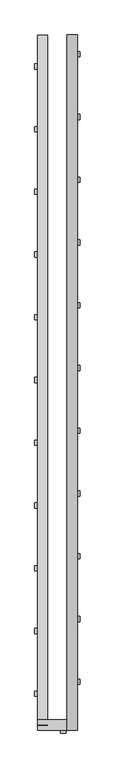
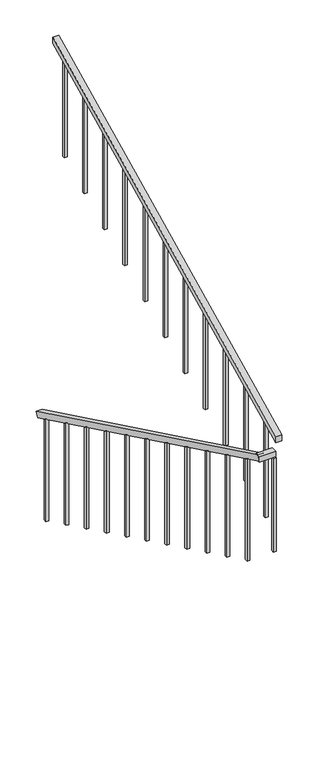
"""IFC4 building model written with IfcOpenShell, lengths in millimetres: railing geometry, ADSK_Стандартное_h 900 Поручень квадратный без направляющих."""

import ifcopenshell
import ifcopenshell.guid

model = None  # the IFC model being written
_history = None  # IfcOwnerHistory: only IFC2X3 demands one
_inside = {}  # id of a spatial element -> (the spatial element, [elements in it])
_under = {}  # id of a project, library or spatial element -> (it, [spatial elements below it])
_declared = {}  # id of a project -> (the project, [libraries it declares])
_typed = {}  # id of a type object -> (the type object, [elements of that type])
_made_of = {}  # id of a material, layer set ... -> (it, [elements and type objects made of it])


def new_model(schema):
    """Start an empty IFC model of exactly this schema.

    Asked for "IFC4X3", IfcOpenShell would pick the latest addendum, in which some entities
    have other attributes; the version numbers below select the first issue.
    IFC2X3 requires an IfcOwnerHistory on every rooted entity: one is made here for all.
    """
    global model, _history
    if schema == "IFC4X3":
        model = ifcopenshell.file(schema_version=(4, 3, 0, 0))
    else:
        model = ifcopenshell.file(schema=schema)
    _inside.clear()
    _under.clear()
    _declared.clear()
    _typed.clear()
    _made_of.clear()
    _history = None
    if model.schema == "IFC2X3":
        org = make("IfcOrganization", Name="unknown")
        user = make(
            "IfcPersonAndOrganization",
            ThePerson=make("IfcPerson", FamilyName="unknown"),
            TheOrganization=org,
        )
        app = make(
            "IfcApplication",
            ApplicationDeveloper=org,
            Version="unknown",
            ApplicationFullName="unknown",
            ApplicationIdentifier="unknown",
        )
        _history = make(
            "IfcOwnerHistory",
            OwningUser=user,
            OwningApplication=app,
            ChangeAction="ADDED",
            CreationDate=0,
        )
    return model


def make(cls, **values):
    """One entity of the class cls with the attributes given. An attribute that is None is left unset."""
    return model.create_entity(
        cls, **{name: value for name, value in values.items() if value is not None}
    )


def rooted(cls, **values):
    """An entity with a GlobalId (a new one), such as an element, a storey or a relation."""
    return make(cls, GlobalId=ifcopenshell.guid.new(), OwnerHistory=_history, **values)


def si_unit(unit_type, name, prefix=None):
    """IfcSIUnit, for example si_unit("LENGTHUNIT", "METRE", prefix="MILLI")."""
    return make("IfcSIUnit", UnitType=unit_type, Prefix=prefix, Name=name)


def assignment(units):
    """IfcUnitAssignment: the units of a project."""
    return None if units is None else make("IfcUnitAssignment", Units=units)


def point(xyz):
    """IfcCartesianPoint."""
    return None if xyz is None else make("IfcCartesianPoint", Coordinates=xyz)


def direction(xyz):
    """IfcDirection."""
    return None if xyz is None else make("IfcDirection", DirectionRatios=xyz)


def frame(location, z_axis=None, x_axis=None):
    """IfcAxis2Placement3D, a coordinate frame: its origin and axes. An axis left out is left unset."""
    return make(
        "IfcAxis2Placement3D",
        Location=point(location),
        Axis=direction(z_axis),
        RefDirection=direction(x_axis),
    )


def origin():
    """The frame at (0, 0, 0) with its axes left unset."""
    return frame((0.0, 0.0, 0.0))


def place(relative_to, where):
    """IfcLocalPlacement: puts the frame where relative to a parent placement (None: the world)."""
    return make(
        "IfcLocalPlacement", PlacementRelTo=relative_to, RelativePlacement=where
    )


def context(
    kind, dimensions, precision=None, world=None, true_north=None, identifier=None
):
    """IfcGeometricRepresentationContext, for example the 3D "Model" context."""
    return make(
        "IfcGeometricRepresentationContext",
        ContextIdentifier=identifier,
        ContextType=kind,
        CoordinateSpaceDimension=dimensions,
        Precision=precision,
        WorldCoordinateSystem=world,
        TrueNorth=true_north,
    )


def project(units=None, contexts=None):
    """IfcProject with its units and contexts."""
    return rooted(
        "IfcProject",
        Name="project",
        RepresentationContexts=contexts,
        UnitsInContext=assignment(units),
    )


def spatial(cls, under=None, at=None, **own):
    """A site, building, storey or space (cls), placed at a placement, below another one or the project."""
    s = rooted(cls, ObjectPlacement=at, **own)
    if under is not None:
        _under.setdefault(under.id(), (under, []))[1].append(s)
    return s


def polyline(points):
    """IfcPolyline through the points."""
    return make("IfcPolyline", Points=[point(p) for p in points])


def outline(outer, holes=None, kind="AREA"):
    """IfcArbitraryClosedProfileDef: a profile drawn as a closed curve; with holes, ...WithVoids."""
    if holes is None:
        return make("IfcArbitraryClosedProfileDef", ProfileType=kind, OuterCurve=outer)
    return make(
        "IfcArbitraryProfileDefWithVoids",
        ProfileType=kind,
        OuterCurve=outer,
        InnerCurves=holes,
    )


def extrude(swept, where, along, depth):
    """IfcExtrudedAreaSolid: the profile swept, set in the frame where, extruded along a direction by depth."""
    return make(
        "IfcExtrudedAreaSolid",
        SweptArea=swept,
        Position=where,
        ExtrudedDirection=direction(along),
        Depth=depth,
    )


def shape(context_of_items, identifier, shape_type, items):
    """IfcShapeRepresentation: the items that make up one representation, for example the "Body"."""
    return make(
        "IfcShapeRepresentation",
        ContextOfItems=context_of_items,
        RepresentationIdentifier=identifier,
        RepresentationType=shape_type,
        Items=items,
    )


def source(mapping_origin, context_of_items, identifier, shape_type, items):
    """IfcRepresentationMap: a shape defined once, which mapped items show again and again."""
    return make(
        "IfcRepresentationMap",
        MappingOrigin=mapping_origin,
        MappedRepresentation=shape(context_of_items, identifier, shape_type, items),
    )


def transform(
    local_origin,
    x_axis=None,
    y_axis=None,
    z_axis=None,
    scale=None,
    scale2=None,
    scale3=None,
    uniform=True,
):
    """IfcCartesianTransformationOperator3D, or its non-uniform kind. x_axis, y_axis, z_axis: its Axis1, 2, 3."""
    if uniform:
        return make(
            "IfcCartesianTransformationOperator3D",
            Axis1=direction(x_axis),
            Axis2=direction(y_axis),
            LocalOrigin=point(local_origin),
            Scale=scale,
            Axis3=direction(z_axis),
        )
    return make(
        "IfcCartesianTransformationOperator3DnonUniform",
        Axis1=direction(x_axis),
        Axis2=direction(y_axis),
        LocalOrigin=point(local_origin),
        Scale=scale,
        Axis3=direction(z_axis),
        Scale2=scale2,
        Scale3=scale3,
    )


def mapped(mapping_source, mapping_target):
    """IfcMappedItem: shows the shape of a source again, moved by a transform."""
    return make(
        "IfcMappedItem", MappingSource=mapping_source, MappingTarget=mapping_target
    )


def made_of(thing, what):
    """Note that an element or type object is made of a material, layer set ...; save() writes the relation."""
    if what is not None:
        _made_of.setdefault(what.id(), (what, []))[1].append(thing)
    return thing


def element(
    cls,
    number,
    at=None,
    inside=None,
    cuts=None,
    type_object=None,
    material=None,
    context=None,
    identifier="Body",
    shape_type=None,
    held_by="IfcProductDefinitionShape",
    body=None,
    shapes=None,
    **own,
):
    """One element of the class cls, such as IfcWall. Its Tag is "e" and its number.

    at: its placement. inside: the storey or other place that contains it. cuts: it is an
    opening in that element (IfcRelVoidsElement). A single representation is given by context,
    identifier, shape_type and body (its items); several are given by shapes. held_by: the class
    of the entity that holds the representations. save() writes the other relations.
    """
    e = rooted(cls, Tag="e%d" % number, ObjectPlacement=at, **own)
    if body is not None:
        shapes = [shape(context, identifier, shape_type, body)]
    if shapes is not None:
        e.Representation = make(held_by, Representations=shapes)
    if inside is not None:
        _inside.setdefault(inside.id(), (inside, []))[1].append(e)
    if cuts is not None:
        rooted(
            "IfcRelVoidsElement", RelatingBuildingElement=cuts, RelatedOpeningElement=e
        )
    if type_object is not None:
        _typed.setdefault(type_object.id(), (type_object, []))[1].append(e)
    return made_of(e, material)


def aggregate(whole, parts):
    """IfcRelAggregates: a whole, such as a stair, and the parts it consists of."""
    return rooted("IfcRelAggregates", RelatingObject=whole, RelatedObjects=parts)


def save(model, path):
    """Write the relations noted so far, then the file.

    IfcRelAggregates (storeys below a building ...), IfcRelContainedInSpatialStructure (elements
    in a storey), IfcRelDefinesByType, IfcRelAssociatesMaterial and IfcRelDeclares: one each for
    every whole, place, type object, material and project.
    """
    for whole, parts in _under.values():
        aggregate(whole, parts)
    for where, things in _inside.values():
        rooted(
            "IfcRelContainedInSpatialStructure",
            RelatedElements=things,
            RelatingStructure=where,
        )
    for kind, things in _typed.values():
        rooted("IfcRelDefinesByType", RelatedObjects=things, RelatingType=kind)
    for what, things in _made_of.values():
        rooted("IfcRelAssociatesMaterial", RelatedObjects=things, RelatingMaterial=what)
    for by, libraries in _declared.values():
        rooted("IfcRelDeclares", RelatingContext=by, RelatedDefinitions=libraries)
    model.write(path)


def railing_4d810907(model_context):
    return source(origin(), model_context, "Body", "SweptSolid", [
        extrude(outline(polyline([(0.0, -50.0), (0.0, 0.0), (3669.2438859, 0.0), (3669.2438859, -50.0), (0.0, -50.0)])), frame((-23398.1240021, -5948.238154, 1000.8649406), z_axis=(0.0, 0.43719270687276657, 0.8993678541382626), x_axis=(0.0, -0.8993678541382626, 0.43719270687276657)), (0.0, 0.0, 1.0), 50.0),
        extrude(outline(polyline([(-23448.1240021, -9251.7785186), (-23448.1240021, -9201.7785186), (-23306.5240021, -9201.7785186), (-23306.5240021, -9251.7785186), (-23448.1240021, -9251.7785186)])), frame((0.0, 0.0, 2600.0), z_axis=(0.0, 0.0, 1.0), x_axis=(1.0, 0.0, 0.0)), (0.0, 0.0, 1.0), 50.0),
        extrude(outline(polyline([(-9251.7785186, 2727.8915068), (-9251.7785186, 2783.4861111), (-5926.3785186, 4400.0), (-5926.3785186, 4344.4053957), (-9251.7785186, 2727.8915068)])), frame((-23306.5240021, 0.0, 0.0), z_axis=(1.0, 0.0, 0.0), x_axis=(0.0, 1.0, 0.0)), (0.0, 0.0, 1.0), 50.0),
        extrude(outline(polyline([(-6031.2785186, 4299.0069444), (-6006.2785186, 4311.1597222), (-6006.2785186, 3354.1666667), (-6031.2785186, 3354.1666667), (-6031.2785186, 4299.0069444)])), frame((-23269.0240021, 0.0, 0.0), z_axis=(1.0, 0.0, 0.0), x_axis=(0.0, 1.0, 0.0)), (0.0, 0.0, 1.0), 25.0),
        extrude(outline(polyline([(-6331.2785186, 4153.1736111), (-6306.2785186, 4165.3263889), (-6306.2785186, 3208.3333333), (-6331.2785186, 3208.3333333), (-6331.2785186, 4153.1736111)])), frame((-23269.0240021, 0.0, 0.0), z_axis=(1.0, 0.0, 0.0), x_axis=(0.0, 1.0, 0.0)), (0.0, 0.0, 1.0), 25.0),
        extrude(outline(polyline([(-6631.2785186, 4007.3402778), (-6606.2785186, 4019.4930556), (-6606.2785186, 3062.5), (-6631.2785186, 3062.5), (-6631.2785186, 4007.3402778)])), frame((-23269.0240021, 0.0, 0.0), z_axis=(1.0, 0.0, 0.0), x_axis=(0.0, 1.0, 0.0)), (0.0, 0.0, 1.0), 25.0),
        extrude(outline(polyline([(-6931.2785186, 3861.5069444), (-6906.2785186, 3873.6597222), (-6906.2785186, 2916.6666667), (-6931.2785186, 2916.6666667), (-6931.2785186, 3861.5069444)])), frame((-23269.0240021, 0.0, 0.0), z_axis=(1.0, 0.0, 0.0), x_axis=(0.0, 1.0, 0.0)), (0.0, 0.0, 1.0), 25.0),
        extrude(outline(polyline([(-7231.2785186, 3715.6736111), (-7206.2785186, 3727.8263889), (-7206.2785186, 2770.8333333), (-7231.2785186, 2770.8333333), (-7231.2785186, 3715.6736111)])), frame((-23269.0240021, 0.0, 0.0), z_axis=(1.0, 0.0, 0.0), x_axis=(0.0, 1.0, 0.0)), (0.0, 0.0, 1.0), 25.0),
        extrude(outline(polyline([(-7531.2785186, 3569.8402778), (-7506.2785186, 3581.9930556), (-7506.2785186, 2625.0), (-7531.2785186, 2625.0), (-7531.2785186, 3569.8402778)])), frame((-23269.0240021, 0.0, 0.0), z_axis=(1.0, 0.0, 0.0), x_axis=(0.0, 1.0, 0.0)), (0.0, 0.0, 1.0), 25.0),
        extrude(outline(polyline([(-7831.2785186, 3424.0069444), (-7806.2785186, 3436.1597222), (-7806.2785186, 2479.1666667), (-7831.2785186, 2479.1666667), (-7831.2785186, 3424.0069444)])), frame((-23269.0240021, 0.0, 0.0), z_axis=(1.0, 0.0, 0.0), x_axis=(0.0, 1.0, 0.0)), (0.0, 0.0, 1.0), 25.0),
        extrude(outline(polyline([(-8131.2785186, 3278.1736111), (-8106.2785186, 3290.3263889), (-8106.2785186, 2333.3333333), (-8131.2785186, 2333.3333333), (-8131.2785186, 3278.1736111)])), frame((-23269.0240021, 0.0, 0.0), z_axis=(1.0, 0.0, 0.0), x_axis=(0.0, 1.0, 0.0)), (0.0, 0.0, 1.0), 25.0),
        extrude(outline(polyline([(-8431.2785186, 3132.3402778), (-8406.2785186, 3144.4930556), (-8406.2785186, 2187.5), (-8431.2785186, 2187.5), (-8431.2785186, 3132.3402778)])), frame((-23269.0240021, 0.0, 0.0), z_axis=(1.0, 0.0, 0.0), x_axis=(0.0, 1.0, 0.0)), (0.0, 0.0, 1.0), 25.0),
        extrude(outline(polyline([(-8731.2785186, 2986.5069444), (-8706.2785186, 2998.6597222), (-8706.2785186, 2041.6666667), (-8731.2785186, 2041.6666667), (-8731.2785186, 2986.5069444)])), frame((-23269.0240021, 0.0, 0.0), z_axis=(1.0, 0.0, 0.0), x_axis=(0.0, 1.0, 0.0)), (0.0, 0.0, 1.0), 25.0),
        extrude(outline(polyline([(-9031.2785186, 2840.6736111), (-9006.2785186, 2852.8263889), (-9006.2785186, 1895.8333333), (-9031.2785186, 1895.8333333), (-9031.2785186, 2840.6736111)])), frame((-23269.0240021, 0.0, 0.0), z_axis=(1.0, 0.0, 0.0), x_axis=(0.0, 1.0, 0.0)), (0.0, 0.0, 1.0), 25.0),
        extrude(outline(polyline([(-23336.0240021, -9239.2785186), (-23311.0240021, -9239.2785186), (-23311.0240021, -9264.2785186), (-23336.0240021, -9264.2785186), (-23336.0240021, -9239.2785186)])), frame((0.0, 0.0, 1750.0), z_axis=(0.0, 0.0, 1.0), x_axis=(1.0, 0.0, 0.0)), (0.0, 0.0, 1.0), 850.0),
        extrude(outline(polyline([(-9063.8785186, 1604.1666667), (-9088.8785186, 1604.1666667), (-9088.8785186, 2533.1597222), (-9063.8785186, 2521.0069444), (-9063.8785186, 1604.1666667)])), frame((-23460.6240021, 0.0, 0.0), z_axis=(1.0, 0.0, 0.0), x_axis=(0.0, 1.0, 0.0)), (0.0, 0.0, 1.0), 25.0),
        extrude(outline(polyline([(-8763.8785186, 1458.3333333), (-8788.8785186, 1458.3333333), (-8788.8785186, 2387.3263889), (-8763.8785186, 2375.1736111), (-8763.8785186, 1458.3333333)])), frame((-23460.6240021, 0.0, 0.0), z_axis=(1.0, 0.0, 0.0), x_axis=(0.0, 1.0, 0.0)), (0.0, 0.0, 1.0), 25.0),
        extrude(outline(polyline([(-8463.8785186, 1312.5), (-8488.8785186, 1312.5), (-8488.8785186, 2241.4930556), (-8463.8785186, 2229.3402778), (-8463.8785186, 1312.5)])), frame((-23460.6240021, 0.0, 0.0), z_axis=(1.0, 0.0, 0.0), x_axis=(0.0, 1.0, 0.0)), (0.0, 0.0, 1.0), 25.0),
        extrude(outline(polyline([(-8163.8785186, 1166.6666667), (-8188.8785186, 1166.6666667), (-8188.8785186, 2095.6597222), (-8163.8785186, 2083.5069444), (-8163.8785186, 1166.6666667)])), frame((-23460.6240021, 0.0, 0.0), z_axis=(1.0, 0.0, 0.0), x_axis=(0.0, 1.0, 0.0)), (0.0, 0.0, 1.0), 25.0),
        extrude(outline(polyline([(-7863.8785186, 1020.8333333), (-7888.8785186, 1020.8333333), (-7888.8785186, 1949.8263889), (-7863.8785186, 1937.6736111), (-7863.8785186, 1020.8333333)])), frame((-23460.6240021, 0.0, 0.0), z_axis=(1.0, 0.0, 0.0), x_axis=(0.0, 1.0, 0.0)), (0.0, 0.0, 1.0), 25.0),
        extrude(outline(polyline([(-7563.8785186, 875.0), (-7588.8785186, 875.0), (-7588.8785186, 1803.9930556), (-7563.8785186, 1791.8402778), (-7563.8785186, 875.0)])), frame((-23460.6240021, 0.0, 0.0), z_axis=(1.0, 0.0, 0.0), x_axis=(0.0, 1.0, 0.0)), (0.0, 0.0, 1.0), 25.0),
        extrude(outline(polyline([(-7263.8785186, 729.1666667), (-7288.8785186, 729.1666667), (-7288.8785186, 1658.1597222), (-7263.8785186, 1646.0069444), (-7263.8785186, 729.1666667)])), frame((-23460.6240021, 0.0, 0.0), z_axis=(1.0, 0.0, 0.0), x_axis=(0.0, 1.0, 0.0)), (0.0, 0.0, 1.0), 25.0),
        extrude(outline(polyline([(-6963.8785186, 583.3333333), (-6988.8785186, 583.3333333), (-6988.8785186, 1512.3263889), (-6963.8785186, 1500.1736111), (-6963.8785186, 583.3333333)])), frame((-23460.6240021, 0.0, 0.0), z_axis=(1.0, 0.0, 0.0), x_axis=(0.0, 1.0, 0.0)), (0.0, 0.0, 1.0), 25.0),
        extrude(outline(polyline([(-6663.8785186, 437.5), (-6688.8785186, 437.5), (-6688.8785186, 1366.4930556), (-6663.8785186, 1354.3402778), (-6663.8785186, 437.5)])), frame((-23460.6240021, 0.0, 0.0), z_axis=(1.0, 0.0, 0.0), x_axis=(0.0, 1.0, 0.0)), (0.0, 0.0, 1.0), 25.0),
        extrude(outline(polyline([(-6363.8785186, 291.6666667), (-6388.8785186, 291.6666667), (-6388.8785186, 1220.6597222), (-6363.8785186, 1208.5069444), (-6363.8785186, 291.6666667)])), frame((-23460.6240021, 0.0, 0.0), z_axis=(1.0, 0.0, 0.0), x_axis=(0.0, 1.0, 0.0)), (0.0, 0.0, 1.0), 25.0),
        extrude(outline(polyline([(-6063.8785186, 145.8333333), (-6088.8785186, 145.8333333), (-6088.8785186, 1074.8263889), (-6063.8785186, 1062.6736111), (-6063.8785186, 145.8333333)])), frame((-23460.6240021, 0.0, 0.0), z_axis=(1.0, 0.0, 0.0), x_axis=(0.0, 1.0, 0.0)), (0.0, 0.0, 1.0), 25.0),
    ])


if __name__ == "__main__":
    model = new_model("IFC4")
    model_context = context("Model", 3, world=origin())
    ifc_project = project(units=[si_unit("LENGTHUNIT", "METRE", prefix="MILLI")], contexts=[model_context])
    site = spatial("IfcSite", under=ifc_project)
    building = spatial("IfcBuilding", under=site)
    placement = place(None, origin())
    railing_shape = railing_4d810907(model_context)
    element("IfcRailing", 1, ObjectType="ADSK_Стандартное_h 900 Поручень квадратный без направляющих", at=placement, inside=building, context=model_context, shape_type="MappedRepresentation", body=[
        mapped(railing_shape, transform((0.0, 0.0, 0.0), x_axis=(1.0, 0.0, 0.0), y_axis=(0.0, 1.0, 0.0), z_axis=(0.0, 0.0, 1.0))),
    ])
    save(model, "model.ifc")
